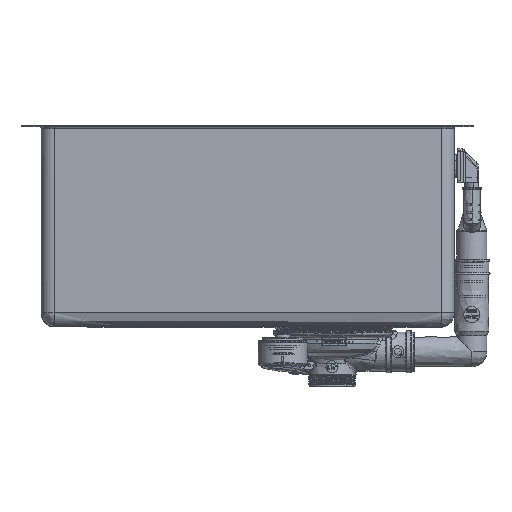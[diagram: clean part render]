
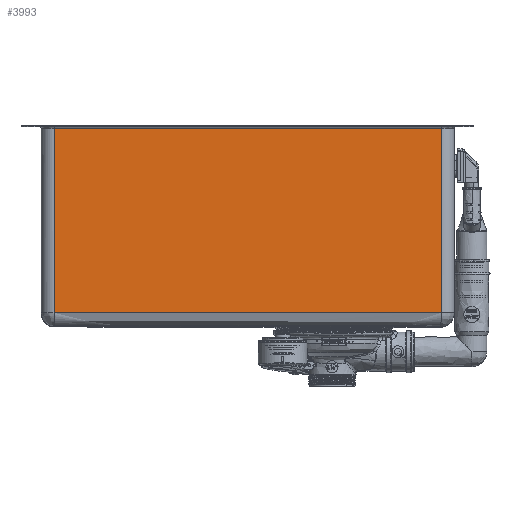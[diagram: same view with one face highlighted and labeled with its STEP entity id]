
A CAD part, left-side view. The second image highlights one B-rep face of the part: STEP entity #3993.
In plain terms, the highlighted free-form (B-spline) face has degree [1, 1] with [2, 2] control points.
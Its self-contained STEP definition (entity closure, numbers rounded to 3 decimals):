
#3993=ADVANCED_FACE('      58',(#13644),#13645,.T.);
#13644=FACE_OUTER_BOUND('',#70166,.T.);
#13645=B_SPLINE_SURFACE_WITH_KNOTS('',1,1,((#70167,#70168),(#70169,#70170)),.UNSPECIFIED.,.F.,.F.,.F.,(2,2),(2,2),(0.0,1.0),(0.0,1.0),.UNSPECIFIED.);
#70166=EDGE_LOOP('',(#108291,#108292,#108293,#108294));
#70167=CARTESIAN_POINT('',(-343.5,-193.0,-2.));
#70168=CARTESIAN_POINT('',(-343.5,-193.0,-185.49));
#70169=CARTESIAN_POINT('',(-343.5,193.0,-2.));
#70170=CARTESIAN_POINT('',(-343.5,193.0,-185.49));
#108291=ORIENTED_EDGE('',*,*,#127470,.T.);
#108292=ORIENTED_EDGE('',*,*,#127471,.T.);
#108293=ORIENTED_EDGE('',*,*,#127472,.T.);
#108294=ORIENTED_EDGE('',*,*,#127467,.F.);
#127467=EDGE_CURVE('      58',#149315,#149317,#149318,.T.);
#127470=EDGE_CURVE('      58',#149315,#149322,#149323,.T.);
#127471=EDGE_CURVE('      58',#149322,#149324,#149325,.T.);
#127472=EDGE_CURVE('      58',#149324,#149317,#149326,.T.);
#149315=VERTEX_POINT('',#224493);
#149317=VERTEX_POINT('',#224505);
#149318=B_SPLINE_CURVE_WITH_KNOTS('',1,(#224506,#224507),.UNSPECIFIED.,.F.,.F.,(2,2),(0.0,1.0),.UNSPECIFIED.);
#149322=VERTEX_POINT('',#224522);
#149323=B_SPLINE_CURVE_WITH_KNOTS('',1,(#224523,#224524),.UNSPECIFIED.,.F.,.F.,(2,2),(0.0,1.0),.UNSPECIFIED.);
#149324=VERTEX_POINT('',#224525);
#149325=B_SPLINE_CURVE_WITH_KNOTS('',1,(#224526,#224527),.UNSPECIFIED.,.F.,.F.,(2,2),(0.0,1.0),.UNSPECIFIED.);
#149326=B_SPLINE_CURVE_WITH_KNOTS('',1,(#224528,#224529),.UNSPECIFIED.,.F.,.F.,(2,2),(0.0,1.0),.UNSPECIFIED.);
#224493=CARTESIAN_POINT('',(-343.5,193.0,-185.49));
#224505=CARTESIAN_POINT('',(-343.5,193.0,-2.));
#224506=CARTESIAN_POINT('',(-343.5,193.0,-185.49));
#224507=CARTESIAN_POINT('',(-343.5,193.0,-2.));
#224522=CARTESIAN_POINT('',(-343.5,-193.0,-185.49));
#224523=CARTESIAN_POINT('',(-343.5,193.0,-185.49));
#224524=CARTESIAN_POINT('',(-343.5,-193.0,-185.49));
#224525=CARTESIAN_POINT('',(-343.5,-193.0,-2.));
#224526=CARTESIAN_POINT('',(-343.5,-193.0,-185.49));
#224527=CARTESIAN_POINT('',(-343.5,-193.0,-2.));
#224528=CARTESIAN_POINT('',(-343.5,-193.0,-2.));
#224529=CARTESIAN_POINT('',(-343.5,193.0,-2.));
